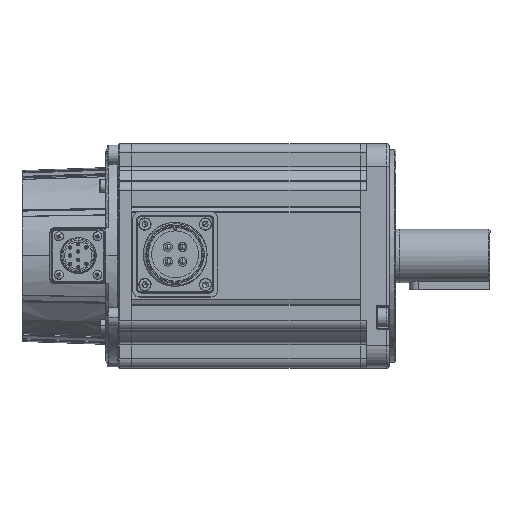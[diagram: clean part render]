
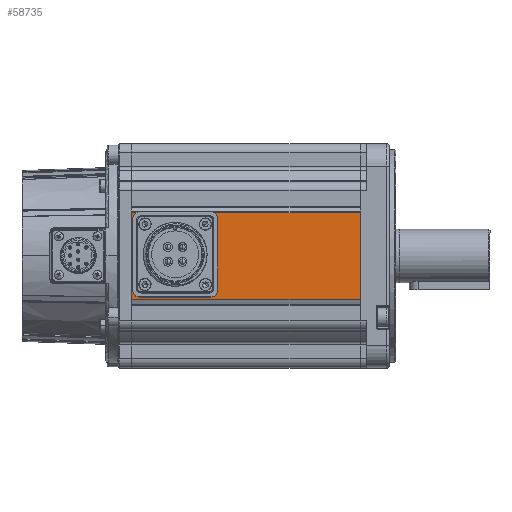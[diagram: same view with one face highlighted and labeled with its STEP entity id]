
A CAD part, top view. The second image highlights one B-rep face of the part: STEP entity #58735.
In plain terms, the highlighted planar face has unit normal (0, 0, 1) as drawn and (-1, 0, 0) by its records, which use the part's own axes.
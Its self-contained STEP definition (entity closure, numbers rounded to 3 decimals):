
#191 = DIRECTION ( 'NONE',  ( -1., 0., 0. ) ) ;
#255 = FACE_BOUND ( 'NONE', #27862, .T. ) ;
#672 = EDGE_CURVE ( 'NONE', #37443, #1537, #33548, .T. ) ;
#1537 = VERTEX_POINT ( 'NONE', #71605 ) ;
#2949 = CARTESIAN_POINT ( 'NONE',  ( -50., -14.1, 7.15 ) ) ;
#3178 = CARTESIAN_POINT ( 'NONE',  ( -50., -19.3, 0. ) ) ;
#3446 = VERTEX_POINT ( 'NONE', #11917 ) ;
#3947 = DIRECTION ( 'NONE',  ( 0., -1., 0. ) ) ;
#4952 = CARTESIAN_POINT ( 'NONE',  ( -50., -14.1, 4.65 ) ) ;
#5951 = AXIS2_PLACEMENT_3D ( 'NONE', #22160, #73145, #28192 ) ;
#6059 = CIRCLE ( 'NONE', #51898, 1.25 ) ;
#6190 = EDGE_LOOP ( 'NONE', ( #15096, #64798 ) ) ;
#7852 = CIRCLE ( 'NONE', #24149, 1.25 ) ;
#11014 = ORIENTED_EDGE ( 'NONE', *, *, #59767, .F. ) ;
#11630 = EDGE_CURVE ( 'NONE', #40844, #58675, #57237, .T. ) ;
#11917 = CARTESIAN_POINT ( 'NONE',  ( -50., 14.1, 32.85 ) ) ;
#12774 = CIRCLE ( 'NONE', #68754, 1.25 ) ;
#12984 = ORIENTED_EDGE ( 'NONE', *, *, #54145, .F. ) ;
#13139 = VERTEX_POINT ( 'NONE', #27076 ) ;
#13194 = CARTESIAN_POINT ( 'NONE',  ( -50., 0., 16.5 ) ) ;
#14676 = LINE ( 'NONE', #44611, #65192 ) ;
#15096 = ORIENTED_EDGE ( 'NONE', *, *, #11630, .F. ) ;
#15620 = DIRECTION ( 'NONE',  ( 0., 0., 1. ) ) ;
#15959 = ORIENTED_EDGE ( 'NONE', *, *, #72180, .F. ) ;
#16068 = PLANE ( 'NONE',  #29668 ) ;
#16210 = EDGE_CURVE ( 'NONE', #21610, #59183, #14676, .T. ) ;
#17651 = ORIENTED_EDGE ( 'NONE', *, *, #56263, .F. ) ;
#17934 = ORIENTED_EDGE ( 'NONE', *, *, #42103, .F. ) ;
#17986 = CARTESIAN_POINT ( 'NONE',  ( -50., 19.3, 102. ) ) ;
#18609 = ORIENTED_EDGE ( 'NONE', *, *, #71509, .F. ) ;
#18809 = DIRECTION ( 'NONE',  ( 0., 0., 1. ) ) ;
#20369 = CARTESIAN_POINT ( 'NONE',  ( -50., -14.1, 5.9 ) ) ;
#21170 = EDGE_CURVE ( 'NONE', #58675, #40844, #12774, .T. ) ;
#21610 = VERTEX_POINT ( 'NONE', #3178 ) ;
#22144 = VERTEX_POINT ( 'NONE', #69651 ) ;
#22160 = CARTESIAN_POINT ( 'NONE',  ( -50., 14.1, 5.9 ) ) ;
#23498 = DIRECTION ( 'NONE',  ( 0., 0., -1. ) ) ;
#23640 = CARTESIAN_POINT ( 'NONE',  ( -50., 19.5, 102. ) ) ;
#24149 = AXIS2_PLACEMENT_3D ( 'NONE', #47301, #53353, #18809 ) ;
#25079 = DIRECTION ( 'NONE',  ( -1., 0., 0. ) ) ;
#26942 = DIRECTION ( 'NONE',  ( 1., 0., 0. ) ) ;
#27076 = CARTESIAN_POINT ( 'NONE',  ( -50., 19.3, 0. ) ) ;
#27262 = ORIENTED_EDGE ( 'NONE', *, *, #672, .F. ) ;
#27862 = EDGE_LOOP ( 'NONE', ( #18609, #31196 ) ) ;
#27921 = CARTESIAN_POINT ( 'NONE',  ( -50., 19.5, 102. ) ) ;
#28175 = FACE_BOUND ( 'NONE', #49303, .T. ) ;
#28192 = DIRECTION ( 'NONE',  ( 0., 0., 1. ) ) ;
#28588 = DIRECTION ( 'NONE',  ( 0., 0., 1. ) ) ;
#28630 = ORIENTED_EDGE ( 'NONE', *, *, #43735, .F. ) ;
#29668 = AXIS2_PLACEMENT_3D ( 'NONE', #27921, #26942, #32960 ) ;
#31196 = ORIENTED_EDGE ( 'NONE', *, *, #66143, .F. ) ;
#31377 = CARTESIAN_POINT ( 'NONE',  ( -50., -19.3, 102. ) ) ;
#32433 = DIRECTION ( 'NONE',  ( 0., 0., 1. ) ) ;
#32960 = DIRECTION ( 'NONE',  ( 0., 1., 0. ) ) ;
#33366 = LINE ( 'NONE', #43585, #57773 ) ;
#33548 = CIRCLE ( 'NONE', #70256, 10. ) ;
#34528 = FACE_BOUND ( 'NONE', #6190, .T. ) ;
#35467 = FACE_OUTER_BOUND ( 'NONE', #36659, .T. ) ;
#36659 = EDGE_LOOP ( 'NONE', ( #12984, #54755, #36836, #49078 ) ) ;
#36836 = ORIENTED_EDGE ( 'NONE', *, *, #37877, .T. ) ;
#37000 = DIRECTION ( 'NONE',  ( -1., 0., 0. ) ) ;
#37199 = CIRCLE ( 'NONE', #59575, 1.25 ) ;
#37311 = EDGE_LOOP ( 'NONE', ( #27262, #17934 ) ) ;
#37443 = VERTEX_POINT ( 'NONE', #66817 ) ;
#37877 = EDGE_CURVE ( 'NONE', #13139, #21610, #33366, .T. ) ;
#38278 = DIRECTION ( 'NONE',  ( -1., 0., 0. ) ) ;
#39182 = CARTESIAN_POINT ( 'NONE',  ( -50., 0., 16.5 ) ) ;
#39522 = CIRCLE ( 'NONE', #5951, 1.25 ) ;
#39691 = CARTESIAN_POINT ( 'NONE',  ( -50., 14.1, 5.9 ) ) ;
#40051 = CARTESIAN_POINT ( 'NONE',  ( -50., 14.1, 34.1 ) ) ;
#40844 = VERTEX_POINT ( 'NONE', #55662 ) ;
#40917 = FACE_BOUND ( 'NONE', #37311, .T. ) ;
#41026 = CARTESIAN_POINT ( 'NONE',  ( -50., -14.1, 34.1 ) ) ;
#42103 = EDGE_CURVE ( 'NONE', #1537, #37443, #52870, .T. ) ;
#42445 = VERTEX_POINT ( 'NONE', #73704 ) ;
#42846 = DIRECTION ( 'NONE',  ( 0., -1., 0. ) ) ;
#43003 = AXIS2_PLACEMENT_3D ( 'NONE', #13194, #25079, #48261 ) ;
#43585 = CARTESIAN_POINT ( 'NONE',  ( -50., 19.5, 0. ) ) ;
#43735 = EDGE_CURVE ( 'NONE', #42445, #3446, #37199, .T. ) ;
#44077 = CARTESIAN_POINT ( 'NONE',  ( -50., -14.1, 32.85 ) ) ;
#44499 = DIRECTION ( 'NONE',  ( -1., 0., 0. ) ) ;
#44611 = CARTESIAN_POINT ( 'NONE',  ( -50., -19.3, 102. ) ) ;
#44831 = LINE ( 'NONE', #58020, #56578 ) ;
#45607 = DIRECTION ( 'NONE',  ( -1., 0., 0. ) ) ;
#46578 = DIRECTION ( 'NONE',  ( 0., 0., 1. ) ) ;
#46872 = VERTEX_POINT ( 'NONE', #4952 ) ;
#47301 = CARTESIAN_POINT ( 'NONE',  ( -50., -14.1, 5.9 ) ) ;
#47622 = EDGE_CURVE ( 'NONE', #55652, #13139, #44831, .T. ) ;
#47921 = LINE ( 'NONE', #23640, #49749 ) ;
#48261 = DIRECTION ( 'NONE',  ( 0., -1., 0. ) ) ;
#48349 = VERTEX_POINT ( 'NONE', #2949 ) ;
#49078 = ORIENTED_EDGE ( 'NONE', *, *, #16210, .T. ) ;
#49303 = EDGE_LOOP ( 'NONE', ( #28630, #15959 ) ) ;
#49670 = DIRECTION ( 'NONE',  ( 0., 0., 1. ) ) ;
#49749 = VECTOR ( 'NONE', #69492, 1000. ) ;
#51089 = CARTESIAN_POINT ( 'NONE',  ( -50., 14.1, 34.1 ) ) ;
#51537 = CIRCLE ( 'NONE', #61586, 1.25 ) ;
#51898 = AXIS2_PLACEMENT_3D ( 'NONE', #51089, #56864, #74279 ) ;
#52870 = CIRCLE ( 'NONE', #43003, 10. ) ;
#53353 = DIRECTION ( 'NONE',  ( -1., 0., 0. ) ) ;
#54145 = EDGE_CURVE ( 'NONE', #55652, #59183, #47921, .T. ) ;
#54755 = ORIENTED_EDGE ( 'NONE', *, *, #47622, .T. ) ;
#55652 = VERTEX_POINT ( 'NONE', #17986 ) ;
#55662 = CARTESIAN_POINT ( 'NONE',  ( -50., -14.1, 35.35 ) ) ;
#55833 = VERTEX_POINT ( 'NONE', #60791 ) ;
#56263 = EDGE_CURVE ( 'NONE', #48349, #46872, #7852, .T. ) ;
#56578 = VECTOR ( 'NONE', #23498, 1000. ) ;
#56864 = DIRECTION ( 'NONE',  ( -1., 0., 0. ) ) ;
#57237 = CIRCLE ( 'NONE', #62293, 1.25 ) ;
#57510 = EDGE_LOOP ( 'NONE', ( #17651, #11014 ) ) ;
#57773 = VECTOR ( 'NONE', #42846, 1000. ) ;
#58020 = CARTESIAN_POINT ( 'NONE',  ( -50., 19.3, 102. ) ) ;
#58675 = VERTEX_POINT ( 'NONE', #44077 ) ;
#58735 = ADVANCED_FACE ( 'NONE', ( #28175, #34528, #69707, #255, #40917, #35467 ), #16068, .F. ) ;
#59183 = VERTEX_POINT ( 'NONE', #31377 ) ;
#59575 = AXIS2_PLACEMENT_3D ( 'NONE', #40051, #45607, #73647 ) ;
#59767 = EDGE_CURVE ( 'NONE', #46872, #48349, #63248, .T. ) ;
#60791 = CARTESIAN_POINT ( 'NONE',  ( -50., 14.1, 7.15 ) ) ;
#61586 = AXIS2_PLACEMENT_3D ( 'NONE', #39691, #68655, #28588 ) ;
#62293 = AXIS2_PLACEMENT_3D ( 'NONE', #41026, #191, #46578 ) ;
#63248 = CIRCLE ( 'NONE', #65429, 1.25 ) ;
#64798 = ORIENTED_EDGE ( 'NONE', *, *, #21170, .F. ) ;
#65192 = VECTOR ( 'NONE', #15620, 1000. ) ;
#65429 = AXIS2_PLACEMENT_3D ( 'NONE', #20369, #37000, #32433 ) ;
#66143 = EDGE_CURVE ( 'NONE', #22144, #55833, #51537, .T. ) ;
#66817 = CARTESIAN_POINT ( 'NONE',  ( -50., -10., 16.5 ) ) ;
#68655 = DIRECTION ( 'NONE',  ( -1., 0., 0. ) ) ;
#68754 = AXIS2_PLACEMENT_3D ( 'NONE', #73366, #38278, #49670 ) ;
#69492 = DIRECTION ( 'NONE',  ( 0., -1., 0. ) ) ;
#69651 = CARTESIAN_POINT ( 'NONE',  ( -50., 14.1, 4.65 ) ) ;
#69707 = FACE_BOUND ( 'NONE', #57510, .T. ) ;
#70256 = AXIS2_PLACEMENT_3D ( 'NONE', #39182, #44499, #3947 ) ;
#71509 = EDGE_CURVE ( 'NONE', #55833, #22144, #39522, .T. ) ;
#71605 = CARTESIAN_POINT ( 'NONE',  ( -50., 10., 16.5 ) ) ;
#72180 = EDGE_CURVE ( 'NONE', #3446, #42445, #6059, .T. ) ;
#73145 = DIRECTION ( 'NONE',  ( -1., 0., 0. ) ) ;
#73366 = CARTESIAN_POINT ( 'NONE',  ( -50., -14.1, 34.1 ) ) ;
#73647 = DIRECTION ( 'NONE',  ( 0., 0., 1. ) ) ;
#73704 = CARTESIAN_POINT ( 'NONE',  ( -50., 14.1, 35.35 ) ) ;
#74279 = DIRECTION ( 'NONE',  ( 0., 0., 1. ) ) ;
